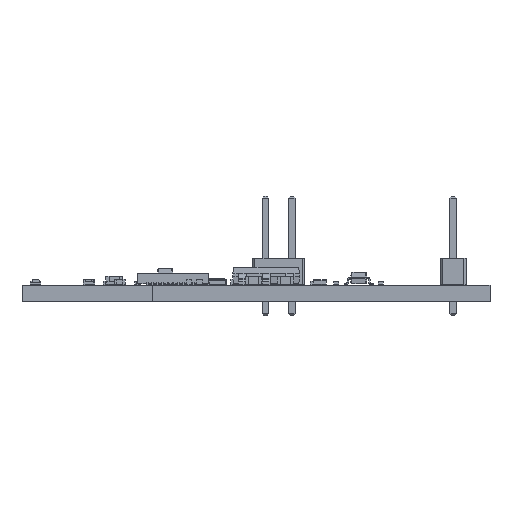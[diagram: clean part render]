
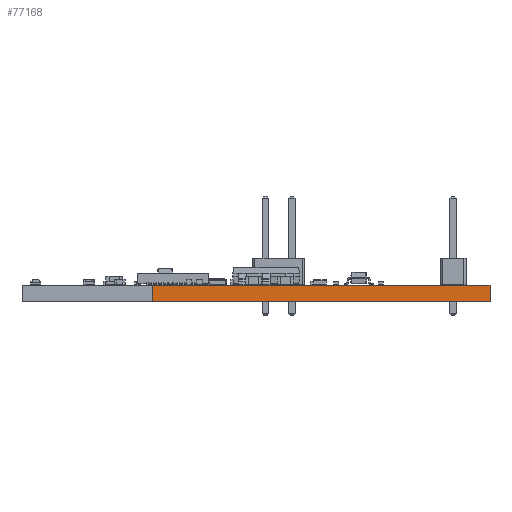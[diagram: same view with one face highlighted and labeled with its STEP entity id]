
A CAD part, front view. The second image highlights one B-rep face of the part: STEP entity #77168.
In plain terms, the highlighted planar face has unit normal (0, -1, 0).
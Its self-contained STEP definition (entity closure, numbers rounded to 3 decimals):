
#68303 = PLANE('',#68304);
#68304 = AXIS2_PLACEMENT_3D('',#68305,#68306,#68307);
#68305 = CARTESIAN_POINT('',(138.647,-90.719,1.58));
#68306 = DIRECTION('',(-0.,-0.,-1.));
#68307 = DIRECTION('',(-1.,0.,0.));
#68357 = PLANE('',#68358);
#68358 = AXIS2_PLACEMENT_3D('',#68359,#68360,#68361);
#68359 = CARTESIAN_POINT('',(138.647,-90.719,0.));
#68360 = DIRECTION('',(-0.,-0.,-1.));
#68361 = DIRECTION('',(-1.,0.,0.));
#68802 = VERTEX_POINT('',#68803);
#68803 = CARTESIAN_POINT('',(162.56,-111.9,0.));
#68817 = PLANE('',#68818);
#68818 = AXIS2_PLACEMENT_3D('',#68819,#68820,#68821);
#68819 = CARTESIAN_POINT('',(162.5,-92.9,0.));
#68820 = DIRECTION('',(1.,0.003,-0.));
#68821 = DIRECTION('',(0.003,-1.,0.));
#68829 = EDGE_CURVE('',#68802,#68830,#68832,.T.);
#68830 = VERTEX_POINT('',#68831);
#68831 = CARTESIAN_POINT('',(129.86,-111.9,0.));
#68832 = SURFACE_CURVE('',#68833,(#68837,#68844),.PCURVE_S1.);
#68833 = LINE('',#68834,#68835);
#68834 = CARTESIAN_POINT('',(162.56,-111.9,0.));
#68835 = VECTOR('',#68836,1.);
#68836 = DIRECTION('',(-1.,0.,0.));
#68837 = PCURVE('',#68357,#68838);
#68838 = DEFINITIONAL_REPRESENTATION('',(#68839),#68843);
#68839 = LINE('',#68840,#68841);
#68840 = CARTESIAN_POINT('',(-23.913,-21.181));
#68841 = VECTOR('',#68842,1.);
#68842 = DIRECTION('',(1.,0.));
#68843 = ( GEOMETRIC_REPRESENTATION_CONTEXT(2) 
PARAMETRIC_REPRESENTATION_CONTEXT() REPRESENTATION_CONTEXT('2D SPACE',''
  ) );
#68844 = PCURVE('',#68845,#68850);
#68845 = PLANE('',#68846);
#68846 = AXIS2_PLACEMENT_3D('',#68847,#68848,#68849);
#68847 = CARTESIAN_POINT('',(162.56,-111.9,0.));
#68848 = DIRECTION('',(0.,-1.,0.));
#68849 = DIRECTION('',(-1.,0.,0.));
#68850 = DEFINITIONAL_REPRESENTATION('',(#68851),#68855);
#68851 = LINE('',#68852,#68853);
#68852 = CARTESIAN_POINT('',(0.,-0.));
#68853 = VECTOR('',#68854,1.);
#68854 = DIRECTION('',(1.,0.));
#68855 = ( GEOMETRIC_REPRESENTATION_CONTEXT(2) 
PARAMETRIC_REPRESENTATION_CONTEXT() REPRESENTATION_CONTEXT('2D SPACE',''
  ) );
#68873 = PLANE('',#68874);
#68874 = AXIS2_PLACEMENT_3D('',#68875,#68876,#68877);
#68875 = CARTESIAN_POINT('',(129.86,-111.9,0.));
#68876 = DIRECTION('',(-1.,0.,0.));
#68877 = DIRECTION('',(0.,1.,0.));
#73148 = VERTEX_POINT('',#73149);
#73149 = CARTESIAN_POINT('',(162.56,-111.9,1.58));
#73170 = EDGE_CURVE('',#73148,#73171,#73173,.T.);
#73171 = VERTEX_POINT('',#73172);
#73172 = CARTESIAN_POINT('',(129.86,-111.9,1.58));
#73173 = SURFACE_CURVE('',#73174,(#73178,#73185),.PCURVE_S1.);
#73174 = LINE('',#73175,#73176);
#73175 = CARTESIAN_POINT('',(162.56,-111.9,1.58));
#73176 = VECTOR('',#73177,1.);
#73177 = DIRECTION('',(-1.,0.,0.));
#73178 = PCURVE('',#68303,#73179);
#73179 = DEFINITIONAL_REPRESENTATION('',(#73180),#73184);
#73180 = LINE('',#73181,#73182);
#73181 = CARTESIAN_POINT('',(-23.913,-21.181));
#73182 = VECTOR('',#73183,1.);
#73183 = DIRECTION('',(1.,0.));
#73184 = ( GEOMETRIC_REPRESENTATION_CONTEXT(2) 
PARAMETRIC_REPRESENTATION_CONTEXT() REPRESENTATION_CONTEXT('2D SPACE',''
  ) );
#73185 = PCURVE('',#68845,#73186);
#73186 = DEFINITIONAL_REPRESENTATION('',(#73187),#73191);
#73187 = LINE('',#73188,#73189);
#73188 = CARTESIAN_POINT('',(0.,-1.58));
#73189 = VECTOR('',#73190,1.);
#73190 = DIRECTION('',(1.,0.));
#73191 = ( GEOMETRIC_REPRESENTATION_CONTEXT(2) 
PARAMETRIC_REPRESENTATION_CONTEXT() REPRESENTATION_CONTEXT('2D SPACE',''
  ) );
#77120 = EDGE_CURVE('',#68802,#73148,#77121,.T.);
#77121 = SURFACE_CURVE('',#77122,(#77126,#77133),.PCURVE_S1.);
#77122 = LINE('',#77123,#77124);
#77123 = CARTESIAN_POINT('',(162.56,-111.9,0.));
#77124 = VECTOR('',#77125,1.);
#77125 = DIRECTION('',(0.,0.,1.));
#77126 = PCURVE('',#68817,#77127);
#77127 = DEFINITIONAL_REPRESENTATION('',(#77128),#77132);
#77128 = LINE('',#77129,#77130);
#77129 = CARTESIAN_POINT('',(19.,0.));
#77130 = VECTOR('',#77131,1.);
#77131 = DIRECTION('',(0.,-1.));
#77132 = ( GEOMETRIC_REPRESENTATION_CONTEXT(2) 
PARAMETRIC_REPRESENTATION_CONTEXT() REPRESENTATION_CONTEXT('2D SPACE',''
  ) );
#77133 = PCURVE('',#68845,#77134);
#77134 = DEFINITIONAL_REPRESENTATION('',(#77135),#77139);
#77135 = LINE('',#77136,#77137);
#77136 = CARTESIAN_POINT('',(0.,-0.));
#77137 = VECTOR('',#77138,1.);
#77138 = DIRECTION('',(0.,-1.));
#77139 = ( GEOMETRIC_REPRESENTATION_CONTEXT(2) 
PARAMETRIC_REPRESENTATION_CONTEXT() REPRESENTATION_CONTEXT('2D SPACE',''
  ) );
#77168 = ADVANCED_FACE('',(#77169),#68845,.T.);
#77169 = FACE_BOUND('',#77170,.T.);
#77170 = EDGE_LOOP('',(#77171,#77172,#77173,#77194));
#77171 = ORIENTED_EDGE('',*,*,#77120,.T.);
#77172 = ORIENTED_EDGE('',*,*,#73170,.T.);
#77173 = ORIENTED_EDGE('',*,*,#77174,.F.);
#77174 = EDGE_CURVE('',#68830,#73171,#77175,.T.);
#77175 = SURFACE_CURVE('',#77176,(#77180,#77187),.PCURVE_S1.);
#77176 = LINE('',#77177,#77178);
#77177 = CARTESIAN_POINT('',(129.86,-111.9,0.));
#77178 = VECTOR('',#77179,1.);
#77179 = DIRECTION('',(0.,0.,1.));
#77180 = PCURVE('',#68845,#77181);
#77181 = DEFINITIONAL_REPRESENTATION('',(#77182),#77186);
#77182 = LINE('',#77183,#77184);
#77183 = CARTESIAN_POINT('',(32.7,0.));
#77184 = VECTOR('',#77185,1.);
#77185 = DIRECTION('',(0.,-1.));
#77186 = ( GEOMETRIC_REPRESENTATION_CONTEXT(2) 
PARAMETRIC_REPRESENTATION_CONTEXT() REPRESENTATION_CONTEXT('2D SPACE',''
  ) );
#77187 = PCURVE('',#68873,#77188);
#77188 = DEFINITIONAL_REPRESENTATION('',(#77189),#77193);
#77189 = LINE('',#77190,#77191);
#77190 = CARTESIAN_POINT('',(0.,0.));
#77191 = VECTOR('',#77192,1.);
#77192 = DIRECTION('',(0.,-1.));
#77193 = ( GEOMETRIC_REPRESENTATION_CONTEXT(2) 
PARAMETRIC_REPRESENTATION_CONTEXT() REPRESENTATION_CONTEXT('2D SPACE',''
  ) );
#77194 = ORIENTED_EDGE('',*,*,#68829,.F.);
